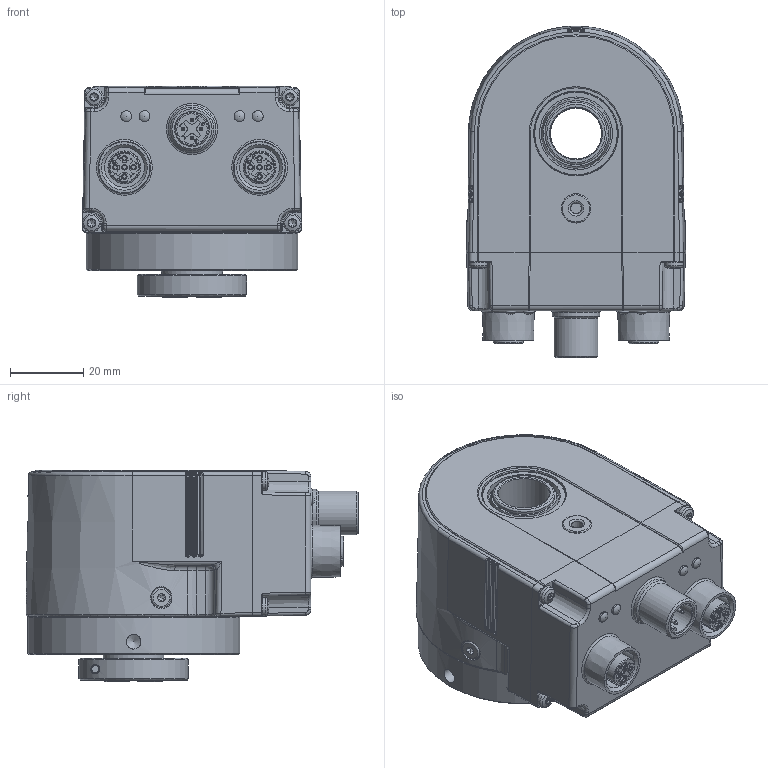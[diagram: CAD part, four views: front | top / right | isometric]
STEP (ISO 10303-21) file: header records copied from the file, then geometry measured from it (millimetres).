
FILE_DESCRIPTION( ( 'Unknown' ), '1' );
FILE_NAME( '//emea.baumernet.org/de01apps/Konstr_Zchng/3D_Zeichnung/Produkte/EAL580_neu_Feldbus/Marketing/Step_fuer_Homepage/EAL580-TNE.4WPT.xxxx0.A.stp', 'Unknown', ( 'Unknown' ), ( 'Unknown' ), 'PSStep 15.0.49', 'Unknown', ' ' );
FILE_SCHEMA( ( 'AUTOMOTIVE_DESIGN { 1 0 10303 214 1 1 1 1 }' ) );
Length unit declared in the file: millimetre
Products named in the file (1): 11159055_PhoenixContact_1411996
Bounding box: 60 x 90.86 x 58 mm (x, y, z)
Volume: 187857.1 mm3; surface area: 30385.4 mm2
Topology: 1 solids, 1 shells, 1224 faces, 3226 edges, 2036 vertices
Faces by surface type: plane 633, cylinder 294, cone 131, bspline 71, torus 69, sphere 26
Full cylindrical faces by diameter (mm): 1 x4, 1.05 x8, 1.1 x2, 1.7 x2, 2.459 x4, 2.5 x3, 3 x5, 3.2 x1, 4 x1, 5 x4, 5.5 x4, 6 x3, 7.5 x2, 8 x2, 8.2 x2, 8.9 x2, 9 x2, 9.45 x1, 9.6 x1, 10.917 x2, 12 x1, 13 x1, 14 x1, 16.2 x1, 16.7 x1, 16.95 x1, 17 x2, 20 x1, 20.2 x1, 23 x1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
Entity records: 54224 total; most frequent: CARTESIAN_POINT 15908, ORIENTED_EDGE 5840, DIRECTION 5763, EDGE_CURVE 2920, AXIS2_PLACEMENT_3D 2018, VERTEX_POINT 1949, LINE 1727, VECTOR 1727
